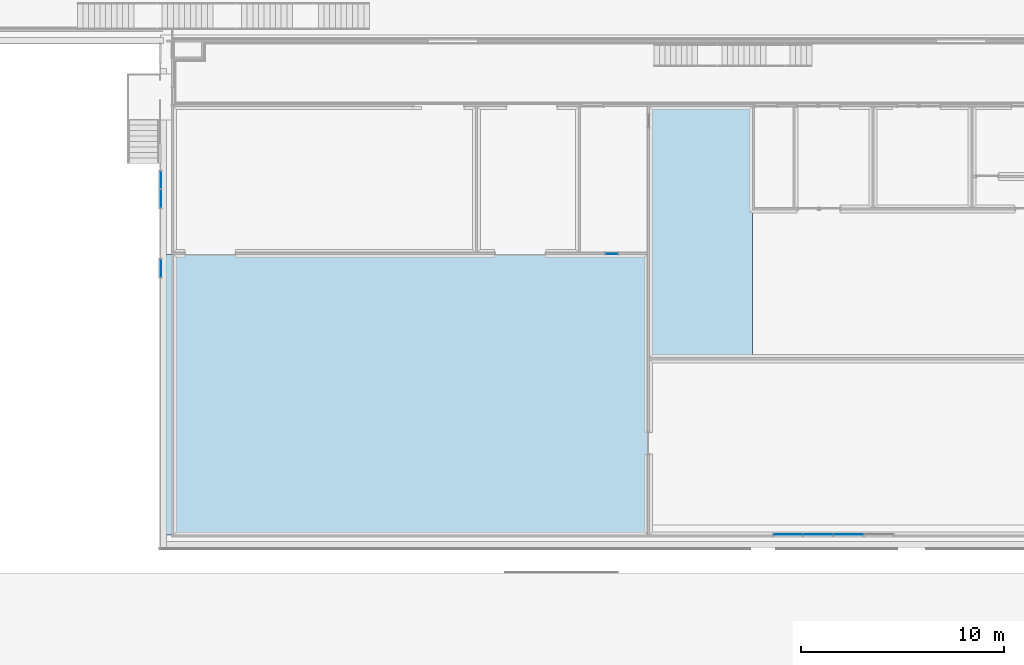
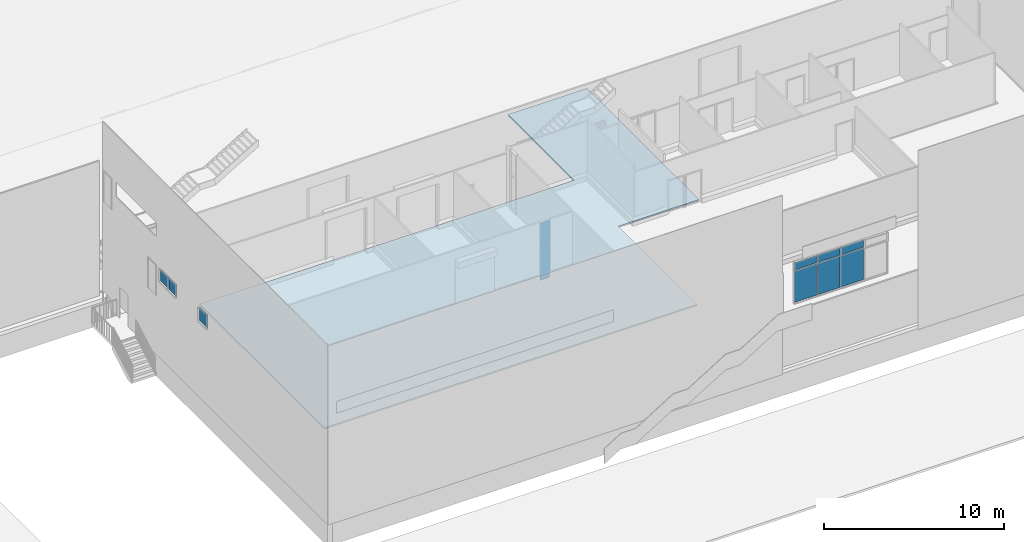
# One storey, part 11 of 64: 11 plates, 1 slab, 4 elements without a shape of their own.
"""IFC2X3 building model written with IfcOpenShell, lengths in millimetres."""

from ifc_helpers import new_model, entity, si_unit, converted_unit, derived_unit, direction, frame, origin, origin_2d_with_axis, place, context, subcontext, project, spatial, polyline, rectangle, outline, extrude, source, transform, mapped, material, layer, layer_set, layer_usage, type_object, type_shapes, element, aggregate, save


model = new_model("IFC2X3")

# Units and contexts
model_context = context("Model", 3, precision=0.01, world=origin(), true_north=direction((4.05803320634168e-15, -1.0)))
body_context = subcontext(model_context, "Body", "Model", "MODEL_VIEW")
ifc_project = project(units=[si_unit("LENGTHUNIT", "METRE", prefix="MILLI"), si_unit("AREAUNIT", "SQUARE_METRE"), si_unit("VOLUMEUNIT", "CUBIC_METRE"), converted_unit("PLANEANGLEUNIT", "DEGREE", entity("IfcRatioMeasure", 0.0174532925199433), si_unit("PLANEANGLEUNIT", "RADIAN"), dimensions=[0, 0, 0, 0, 0, 0, 0]), si_unit("MASSUNIT", "GRAM", prefix="KILO"), derived_unit("MASSDENSITYUNIT", [(si_unit("MASSUNIT", "GRAM", prefix="KILO"), 1), (si_unit("LENGTHUNIT", "METRE"), -3)]), si_unit("TIMEUNIT", "SECOND"), si_unit("FREQUENCYUNIT", "HERTZ"), si_unit("THERMODYNAMICTEMPERATUREUNIT", "DEGREE_CELSIUS"), derived_unit("THERMALTRANSMITTANCEUNIT", [(si_unit("MASSUNIT", "GRAM", prefix="KILO"), 1), (si_unit("THERMODYNAMICTEMPERATUREUNIT", "KELVIN"), -1), (si_unit("TIMEUNIT", "SECOND"), -3)]), derived_unit("VOLUMETRICFLOWRATEUNIT", [(si_unit("LENGTHUNIT", "METRE"), 3), (si_unit("TIMEUNIT", "SECOND"), -1)]), si_unit("ELECTRICCURRENTUNIT", "AMPERE"), si_unit("ELECTRICVOLTAGEUNIT", "VOLT"), si_unit("POWERUNIT", "WATT"), si_unit("FORCEUNIT", "NEWTON", prefix="KILO"), si_unit("ILLUMINANCEUNIT", "LUX"), si_unit("LUMINOUSFLUXUNIT", "LUMEN"), si_unit("LUMINOUSINTENSITYUNIT", "CANDELA"), derived_unit("USERDEFINED", [(si_unit("MASSUNIT", "GRAM", prefix="KILO"), -1), (si_unit("LENGTHUNIT", "METRE"), -2), (si_unit("TIMEUNIT", "SECOND"), 3), (si_unit("LUMINOUSFLUXUNIT", "LUMEN"), 1)]), derived_unit("LINEARVELOCITYUNIT", [(si_unit("LENGTHUNIT", "METRE"), 1), (si_unit("TIMEUNIT", "SECOND"), -1)]), si_unit("PRESSUREUNIT", "PASCAL"), derived_unit("USERDEFINED", [(si_unit("LENGTHUNIT", "METRE"), -2), (si_unit("MASSUNIT", "GRAM", prefix="KILO"), 1), (si_unit("TIMEUNIT", "SECOND"), -2)])], contexts=[model_context])

# Site, building, storey
site_placement = place(None, frame((927466.849349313, 583801.882853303, 0.0), z_axis=(0.0, 0.0, 1.0), x_axis=(-1.0, 0.0, 0.0)))
site = spatial("IfcSite", under=ifc_project, at=site_placement, Name="Surface", CompositionType="ELEMENT")
building_placement = place(site_placement, origin())
building = spatial("IfcBuilding", under=site, at=building_placement, CompositionType="ELEMENT")
storey_placement = place(building_placement, frame((0.0, 0.0, 44170.0)))
storey = spatial("IfcBuildingStorey", under=building, at=storey_placement, Name="Ground FFL", CompositionType="ELEMENT", Elevation=44170.0)

# Curtain wall, plates
curtain_wall_type = type_object("IfcCurtainWallType", Name="Curtain Wall:Storefront", PredefinedType="NOTDEFINED")
curtain_wall_1_placement = place(storey_placement, frame((0.0, 0.0, -44170.0)))
curtain_wall_1 = element("IfcCurtainWall", 1, at=curtain_wall_1_placement, inside=storey, type_object=curtain_wall_type, Name="Curtain Wall:Storefront", ObjectType="Curtain Wall:Storefront")
ifc_material_1 = material(Name="Glass")
plate_type_1 = type_object("IfcPlateType", Name="Glazed", PredefinedType="CURTAIN_PANEL", material=ifc_material_1)
shared_shape_1 = source(origin(), body_context, "Body", "SweptSolid", [
    extrude(rectangle(XDim=25.0, YDim=875.0, at=origin_2d_with_axis()), frame((0.0, 37.0, 0.0), z_axis=(0.0, 0.0, 1.0), x_axis=(0.0, 1.0, 0.0)), (0.0, 0.0, 1.0), 820.000000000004),
])
type_shapes(plate_type_1, [shared_shape_1])
plate_1_placement = place(curtain_wall_1_placement, frame((-80781.59177989, 18836.7777512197, 49390.539651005), z_axis=(0.0, 0.0, 1.0), x_axis=(0.0, 1.0, 0.0)))
plate_1 = element("IfcPlate", 2, at=plate_1_placement, type_object=plate_type_1, material=ifc_material_1, Name="System Panel:Glazed", ObjectType="Glazed", context=body_context, shape_type="MappedRepresentation", body=[
    mapped(shared_shape_1, transform((0.0, 0.0, 0.0), scale=1.0)),
])
plate_2_placement = place(curtain_wall_1_placement, frame((-80781.59177989, 19761.7777512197, 49390.539651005), z_axis=(0.0, 0.0, 1.0), x_axis=(0.0, 1.0, 0.0)))
plate_2 = element("IfcPlate", 3, at=plate_2_placement, type_object=plate_type_1, material=ifc_material_1, Name="System Panel:Glazed", ObjectType="Glazed", context=body_context, shape_type="MappedRepresentation", body=[
    mapped(shared_shape_1, transform((0.0, 0.0, 0.0), scale=1.0)),
])
aggregate(curtain_wall_1, [plate_1, plate_2])

curtain_wall_2_placement = place(storey_placement, frame((0.0, 0.0, -44170.0)))
curtain_wall_2 = element("IfcCurtainWall", 4, at=curtain_wall_2_placement, inside=storey, type_object=curtain_wall_type, Name="Curtain Wall:Storefront", ObjectType="Curtain Wall:Storefront")
plate_type_2 = type_object("IfcPlateType", Name="Glazed", PredefinedType="CURTAIN_PANEL", material=ifc_material_1)
shared_shape_2 = source(origin(), body_context, "Body", "SweptSolid", [
    extrude(rectangle(XDim=25.0, YDim=1429.81862789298, at=origin_2d_with_axis()), frame((0.0, 37.0, 0.0), z_axis=(0.0, 0.0, 1.0), x_axis=(0.0, 1.0, 0.0)), (0.0, 0.0, 1.0), 2145.0),
])
type_shapes(plate_type_2, [shared_shape_2])
plate_3_placement = place(curtain_wall_2_placement, frame((-111787.599886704, 36380.9699019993, 48220.0), z_axis=(0.0, 0.0, 1.0), x_axis=(-1.0, 0.0, 0.0)))
plate_3 = element("IfcPlate", 5, at=plate_3_placement, type_object=plate_type_2, material=ifc_material_1, Name="System Panel:Glazed", ObjectType="Glazed", context=body_context, shape_type="MappedRepresentation", body=[
    mapped(shared_shape_2, transform((0.0, 0.0, 0.0), scale=1.0)),
])
plate_type_3 = type_object("IfcPlateType", Name="Glazed", PredefinedType="CURTAIN_PANEL", material=ifc_material_1)
shared_shape_3 = source(origin(), body_context, "Body", "SweptSolid", [
    extrude(rectangle(XDim=25.0, YDim=1454.81862758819, at=origin_2d_with_axis()), frame((0.0, 37.0, 0.0), z_axis=(0.0, 0.0, 1.0), x_axis=(0.0, 1.0, 0.0)), (0.0, 0.0, 1.0), 2145.0),
])
type_shapes(plate_type_3, [shared_shape_3])
plate_4_placement = place(curtain_wall_2_placement, frame((-113279.918514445, 36380.9699019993, 48220.0), z_axis=(0.0, 0.0, 1.0), x_axis=(-1.0, 0.0, 0.0)))
plate_4 = element("IfcPlate", 6, at=plate_4_placement, type_object=plate_type_3, material=ifc_material_1, Name="System Panel:Glazed", ObjectType="Glazed", context=body_context, shape_type="MappedRepresentation", body=[
    mapped(shared_shape_3, transform((0.0, 0.0, 0.0), scale=1.0)),
])
plate_5_placement = place(curtain_wall_2_placement, frame((-114784.737142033, 36380.9699019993, 48220.0), z_axis=(0.0, 0.0, 1.0), x_axis=(-1.0, 0.0, 0.0)))
plate_5 = element("IfcPlate", 7, at=plate_5_placement, type_object=plate_type_3, material=ifc_material_1, Name="System Panel:Glazed", ObjectType="Glazed", context=body_context, shape_type="MappedRepresentation", body=[
    mapped(shared_shape_3, transform((0.0, 0.0, 0.0), scale=1.0)),
])
plate_type_4 = type_object("IfcPlateType", Name="Glazed", PredefinedType="CURTAIN_PANEL", material=ifc_material_1)
shared_shape_4 = source(origin(), body_context, "Body", "SweptSolid", [
    extrude(rectangle(XDim=25.0, YDim=1429.81862789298, at=origin_2d_with_axis()), frame((0.0, 37.0, 0.0), z_axis=(0.0, 0.0, 1.0), x_axis=(0.0, 1.0, 0.0)), (0.0, 0.0, 1.0), 505.000000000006),
])
type_shapes(plate_type_4, [shared_shape_4])
plate_6_placement = place(curtain_wall_2_placement, frame((-111787.599886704, 36380.9699019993, 50415.0), z_axis=(0.0, 0.0, 1.0), x_axis=(-1.0, 0.0, 0.0)))
plate_6 = element("IfcPlate", 8, at=plate_6_placement, type_object=plate_type_4, material=ifc_material_1, Name="System Panel:Glazed", ObjectType="Glazed", context=body_context, shape_type="MappedRepresentation", body=[
    mapped(shared_shape_4, transform((0.0, 0.0, 0.0), scale=1.0)),
])
plate_type_5 = type_object("IfcPlateType", Name="Glazed", PredefinedType="CURTAIN_PANEL", material=ifc_material_1)
shared_shape_5 = source(origin(), body_context, "Body", "SweptSolid", [
    extrude(rectangle(XDim=25.0, YDim=1454.81862758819, at=origin_2d_with_axis()), frame((0.0, 37.0, 0.0), z_axis=(0.0, 0.0, 1.0), x_axis=(0.0, 1.0, 0.0)), (0.0, 0.0, 1.0), 505.000000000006),
])
type_shapes(plate_type_5, [shared_shape_5])
plate_7_placement = place(curtain_wall_2_placement, frame((-113279.918514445, 36380.9699019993, 50415.0), z_axis=(0.0, 0.0, 1.0), x_axis=(-1.0, 0.0, 0.0)))
plate_7 = element("IfcPlate", 9, at=plate_7_placement, type_object=plate_type_5, material=ifc_material_1, Name="System Panel:Glazed", ObjectType="Glazed", context=body_context, shape_type="MappedRepresentation", body=[
    mapped(shared_shape_5, transform((0.0, 0.0, 0.0), scale=1.0)),
])
plate_8_placement = place(curtain_wall_2_placement, frame((-114784.737142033, 36380.9699019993, 50415.0), z_axis=(0.0, 0.0, 1.0), x_axis=(-1.0, 0.0, 0.0)))
plate_8 = element("IfcPlate", 10, at=plate_8_placement, type_object=plate_type_5, material=ifc_material_1, Name="System Panel:Glazed", ObjectType="Glazed", context=body_context, shape_type="MappedRepresentation", body=[
    mapped(shared_shape_5, transform((0.0, 0.0, 0.0), scale=1.0)),
])
aggregate(curtain_wall_2, [plate_3, plate_4, plate_5, plate_6, plate_7, plate_8])

# Curtain wall, plate
curtain_wall_3_placement = place(storey_placement, frame((0.0, 0.0, -44170.0)))
curtain_wall_3 = element("IfcCurtainWall", 11, at=curtain_wall_3_placement, inside=storey, type_object=curtain_wall_type, Name="Curtain Wall:Storefront", ObjectType="Curtain Wall:Storefront")
plate_type_6 = type_object("IfcPlateType", Name="Glazed", PredefinedType="CURTAIN_PANEL", material=ifc_material_1)
shared_shape_6 = source(origin(), body_context, "Body", "SweptSolid", [
    extrude(rectangle(XDim=25.0, YDim=899.999999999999, at=origin_2d_with_axis()), frame((0.0, 37.0, 0.0), z_axis=(0.0, 0.0, 1.0), x_axis=(0.0, 1.0, 0.0)), (0.0, 0.0, 1.0), 900.000000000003),
])
type_shapes(plate_type_6, [shared_shape_6])
plate_9_placement = place(curtain_wall_3_placement, frame((-80781.59177989, 23194.7192501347, 49350.539651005), z_axis=(0.0, 0.0, 1.0), x_axis=(0.0, 1.0, 0.0)))
plate_9 = element("IfcPlate", 12, at=plate_9_placement, type_object=plate_type_6, material=ifc_material_1, Name="System Panel:Glazed", ObjectType="Glazed", context=body_context, shape_type="MappedRepresentation", body=[
    mapped(shared_shape_6, transform((0.0, 0.0, 0.0), scale=1.0)),
])
aggregate(curtain_wall_3, [plate_9])

# Curtain wall, plates
curtain_wall_4_placement = place(storey_placement, frame((0.0, 0.0, -44170.0)))
curtain_wall_4 = element("IfcCurtainWall", 13, at=curtain_wall_4_placement, inside=storey, type_object=curtain_wall_type, Name="Curtain Wall:Storefront", ObjectType="Curtain Wall:Storefront")
plate_type_7 = type_object("IfcPlateType", Name="Glazed", PredefinedType="CURTAIN_PANEL", material=ifc_material_1)
shared_shape_7 = source(origin(), body_context, "Body", "SweptSolid", [
    extrude(rectangle(XDim=25.0, YDim=599.999999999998, at=origin_2d_with_axis()), frame((0.0, 37.0, 0.0), z_axis=(0.0, 0.0, 1.0), x_axis=(0.0, 1.0, 0.0)), (0.0, 0.0, 1.0), 2325.0),
])
type_shapes(plate_type_7, [shared_shape_7])
plate_10_placement = place(curtain_wall_4_placement, frame((-103077.937276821, 22457.470326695, 44220.0)))
plate_10 = element("IfcPlate", 14, at=plate_10_placement, type_object=plate_type_7, material=ifc_material_1, Name="System Panel:Glazed", ObjectType="Glazed", context=body_context, shape_type="MappedRepresentation", body=[
    mapped(shared_shape_7, transform((0.0, 0.0, 0.0), scale=1.0)),
])
plate_type_8 = type_object("IfcPlateType", Name="Glazed", PredefinedType="CURTAIN_PANEL", material=ifc_material_1)
shared_shape_8 = source(origin(), body_context, "Body", "SweptSolid", [
    extrude(rectangle(XDim=25.0, YDim=599.999999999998, at=origin_2d_with_axis()), frame((0.0, 37.0, 0.0), z_axis=(0.0, 0.0, 1.0), x_axis=(0.0, 1.0, 0.0)), (0.0, 0.0, 1.0), 1525.0),
])
type_shapes(plate_type_8, [shared_shape_8])
plate_11_placement = place(curtain_wall_4_placement, frame((-103077.937276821, 22457.470326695, 46595.0)))
plate_11 = element("IfcPlate", 15, at=plate_11_placement, type_object=plate_type_8, material=ifc_material_1, Name="System Panel:Glazed", ObjectType="Glazed", context=body_context, shape_type="MappedRepresentation", body=[
    mapped(shared_shape_8, transform((0.0, 0.0, 0.0), scale=1.0)),
])
aggregate(curtain_wall_4, [plate_10, plate_11])

# Slab
ifc_material_2 = material(Name="Isopenal")
ifc_layer = layer(ifc_material_2, 100.0)
ifc_layer_set = layer_set([ifc_layer], Name="Floor:isopanel ceiling")
ifc_layer_usage = layer_usage(ifc_layer_set, "AXIS3", "POSITIVE", 0.0)
slab_placement = place(storey_placement, origin())
element("IfcSlab", 16, at=slab_placement, inside=storey, material=ifc_layer_usage, Name="Floor:isopanel ceiling", ObjectType="Floor:isopanel ceiling", PredefinedType="FLOOR", context=body_context, shape_type="SweptSolid", body=[
    extrude(outline(polyline([(-10241.0055388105, -9835.33637423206), (2198.13189017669, -9835.33637423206), (2198.1318901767, -4655.33637423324), (10945.686611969, -4655.33637423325), (10945.686611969, 19246.0091226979), (-2902.8129633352, 19246.0091226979), (-2902.81296333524, -4755.33637423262), (-10241.0055388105, -4755.33637423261), (-10241.0055388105, -9835.33637423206)])), frame((-100192.600902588, 25410.2832900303, 6100.0), z_axis=(0.0, 0.0, -1.0), x_axis=(0.0, 1.0, 0.0)), (0.0, 0.0, 1.0), 100.000000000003),
])

save(model, "model.ifc")
